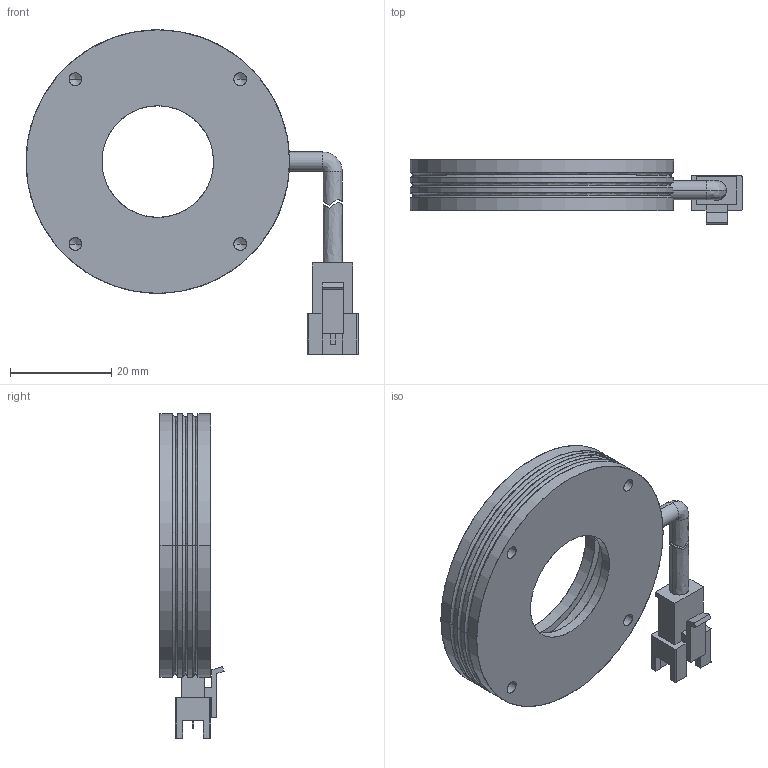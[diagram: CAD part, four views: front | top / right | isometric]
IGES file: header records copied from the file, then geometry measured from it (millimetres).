
Start section: SolidWorks IGES file using analytic representation for surfaces
Global section: file name: E:\SynologyDrive\新款图纸\标准产品\环光\环光90\R5290-22\ED\R5290-22.IGS; native system: SolidWorks 2020; preprocessor: SolidWorks 2020; author: Administrator; date: 200827.101541; units: millimetre
Bounding box: 65.5 x 12.65 x 64 mm (x, y, z)
Surface area: 12925.3 mm2 (no closed solid volume)
Topology: 0 solids, 0 shells, 193 faces, 2980 edges, 2964 vertices
Faces by surface type: bspline 111, revolution 82
